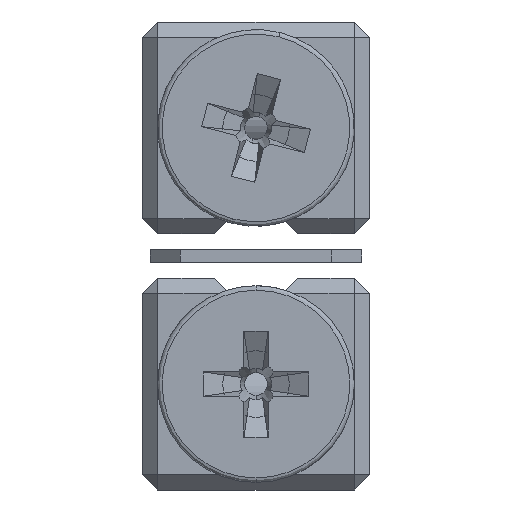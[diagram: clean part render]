
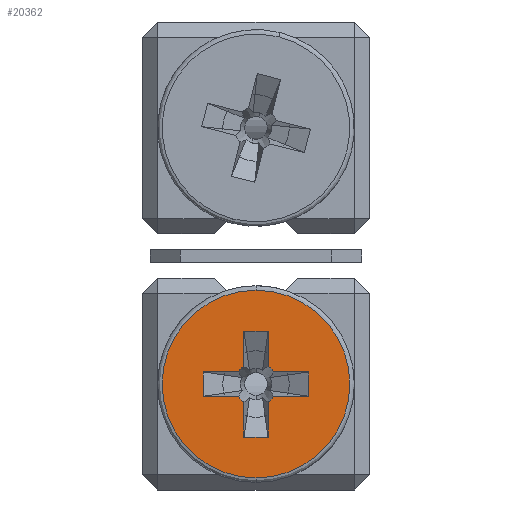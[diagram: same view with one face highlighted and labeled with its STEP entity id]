
A CAD part, left-side view. The second image highlights one B-rep face of the part: STEP entity #20362.
In plain terms, the highlighted planar face has unit normal (-1, 0, 0).
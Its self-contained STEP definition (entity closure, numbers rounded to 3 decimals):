
#133 = EDGE_CURVE ( 'NONE', #7628, #7560, #4654, .T. ) ;
#140 = EDGE_CURVE ( 'NONE', #7688, #7850, #4660, .T. ) ;
#144 = EDGE_CURVE ( 'NONE', #7851, #7608, #6056, .T. ) ;
#148 = EDGE_CURVE ( 'NONE', #7627, #7631, #6060, .T. ) ;
#153 = EDGE_CURVE ( 'NONE', #7622, #7631, #6066, .T. ) ;
#155 = EDGE_CURVE ( 'NONE', #7622, #7621, #6067, .T. ) ;
#156 = EDGE_CURVE ( 'NONE', #7620, #7583, #6065, .T. ) ;
#160 = EDGE_CURVE ( 'NONE', #1072, #7583, #6075, .T. ) ;
#162 = EDGE_CURVE ( 'NONE', #1072, #7608, #6078, .T. ) ;
#163 = EDGE_CURVE ( 'NONE', #7851, #1047, #6079, .T. ) ;
#166 = EDGE_CURVE ( 'NONE', #7553, #1047, #6085, .T. ) ;
#167 = EDGE_CURVE ( 'NONE', #7553, #7850, #6087, .T. ) ;
#168 = EDGE_CURVE ( 'NONE', #7688, #7554, #6089, .T. ) ;
#172 = EDGE_CURVE ( 'NONE', #1079, #7554, #6096, .T. ) ;
#174 = EDGE_CURVE ( 'NONE', #1079, #7552, #6097, .T. ) ;
#176 = EDGE_CURVE ( 'NONE', #7620, #7621, #6101, .T. ) ;
#177 = EDGE_CURVE ( 'NONE', #7627, #7552, #6102, .T. ) ;
#178 = EDGE_CURVE ( 'NONE', #7560, #7628, #6103, .T. ) ;
#1047 = VERTEX_POINT ( 'NONE', #2997 ) ;
#1072 = VERTEX_POINT ( 'NONE', #3021 ) ;
#1079 = VERTEX_POINT ( 'NONE', #3007 ) ;
#1522 = AXIS2_PLACEMENT_3D ( 'NONE', #14224, #14228, #14229 ) ;
#2997 = CARTESIAN_POINT ( 'NONE',  ( -179.202, 32.424, 0.8 ) ) ;
#3007 = CARTESIAN_POINT ( 'NONE',  ( -179.202, 36.724, -3.5 ) ) ;
#3021 = CARTESIAN_POINT ( 'NONE',  ( -179.202, 35.124, 3.5 ) ) ;
#4088 = EDGE_LOOP ( 'NONE', ( #7233, #7236, #20905, #7234, #7235, #7232, #7231, #7230, #21153, #21088, #7218, #21162, #21069, #21080, #21085, #21081 ) ) ;
#4098 = EDGE_LOOP ( 'NONE', ( #21173, #7205 ) ) ;
#4654 = CIRCLE ( 'NONE', #20713, 6.2 ) ;
#4660 = CIRCLE ( 'NONE', #20717, 1.42 ) ;
#6056 = CIRCLE ( 'NONE', #20718, 1.42 ) ;
#6060 = LINE ( 'NONE', #6878, #6062 ) ;
#6062 = VECTOR ( 'NONE', #7030, 1000. ) ;
#6065 = LINE ( 'NONE', #6845, #6072 ) ;
#6066 = LINE ( 'NONE', #6910, #6068 ) ;
#6067 = LINE ( 'NONE', #6915, #6069 ) ;
#6068 = VECTOR ( 'NONE', #7022, 1000. ) ;
#6069 = VECTOR ( 'NONE', #6917, 1000. ) ;
#6072 = VECTOR ( 'NONE', #6844, 1000. ) ;
#6075 = LINE ( 'NONE', #7009, #6077 ) ;
#6077 = VECTOR ( 'NONE', #6830, 1000. ) ;
#6078 = LINE ( 'NONE', #6847, #6080 ) ;
#6079 = LINE ( 'NONE', #7016, #6082 ) ;
#6080 = VECTOR ( 'NONE', #6930, 1000. ) ;
#6082 = VECTOR ( 'NONE', #6846, 1000. ) ;
#6085 = LINE ( 'NONE', #7015, #6088 ) ;
#6087 = LINE ( 'NONE', #6940, #6090 ) ;
#6088 = VECTOR ( 'NONE', #6842, 1000. ) ;
#6089 = LINE ( 'NONE', #6851, #6092 ) ;
#6090 = VECTOR ( 'NONE', #6834, 1000. ) ;
#6092 = VECTOR ( 'NONE', #7012, 1000. ) ;
#6096 = LINE ( 'NONE', #6852, #6098 ) ;
#6097 = LINE ( 'NONE', #7004, #6099 ) ;
#6098 = VECTOR ( 'NONE', #7026, 1000. ) ;
#6099 = VECTOR ( 'NONE', #6926, 1000. ) ;
#6101 = CIRCLE ( 'NONE', #20720, 1.42 ) ;
#6102 = CIRCLE ( 'NONE', #20721, 1.42 ) ;
#6103 = CIRCLE ( 'NONE', #20722, 6.2 ) ;
#6820 = DIRECTION ( 'NONE',  ( 0., 0., 1. ) ) ;
#6830 = DIRECTION ( 'NONE',  ( 0., 1., 0. ) ) ;
#6834 = DIRECTION ( 'NONE',  ( 0., 1., 0. ) ) ;
#6842 = DIRECTION ( 'NONE',  ( 0., 0., 1. ) ) ;
#6843 = CARTESIAN_POINT ( 'NONE',  ( -179.202, 35.924, 0. ) ) ;
#6844 = DIRECTION ( 'NONE',  ( 0., 0., 1. ) ) ;
#6845 = CARTESIAN_POINT ( 'NONE',  ( -179.202, 36.724, -3.5 ) ) ;
#6846 = DIRECTION ( 'NONE',  ( 0., -1., 0. ) ) ;
#6847 = CARTESIAN_POINT ( 'NONE',  ( -179.202, 35.124, 3.5 ) ) ;
#6851 = CARTESIAN_POINT ( 'NONE',  ( -179.202, 35.124, 3.5 ) ) ;
#6852 = CARTESIAN_POINT ( 'NONE',  ( -179.202, 36.724, -3.5 ) ) ;
#6878 = CARTESIAN_POINT ( 'NONE',  ( -179.202, 32.424, -0.8 ) ) ;
#6910 = CARTESIAN_POINT ( 'NONE',  ( -179.202, 39.424, 0.8 ) ) ;
#6915 = CARTESIAN_POINT ( 'NONE',  ( -179.202, 39.424, 0.8 ) ) ;
#6917 = DIRECTION ( 'NONE',  ( 0., -1., 0. ) ) ;
#6926 = DIRECTION ( 'NONE',  ( 0., 0., 1. ) ) ;
#6930 = DIRECTION ( 'NONE',  ( 0., 0., -1. ) ) ;
#6940 = CARTESIAN_POINT ( 'NONE',  ( -179.202, 32.424, -0.8 ) ) ;
#6958 = DIRECTION ( 'NONE',  ( 0., 0., 1. ) ) ;
#6959 = CARTESIAN_POINT ( 'NONE',  ( -179.202, 35.924, 0. ) ) ;
#6962 = DIRECTION ( 'NONE',  ( -1., 0., 0. ) ) ;
#6963 = DIRECTION ( 'NONE',  ( 0., 0., -1. ) ) ;
#6964 = DIRECTION ( 'NONE',  ( -1., 0., 0. ) ) ;
#6967 = CARTESIAN_POINT ( 'NONE',  ( -179.202, 35.924, 0. ) ) ;
#6968 = DIRECTION ( 'NONE',  ( 0., 0., 1. ) ) ;
#6980 = CARTESIAN_POINT ( 'NONE',  ( -179.202, 35.924, 0. ) ) ;
#7004 = CARTESIAN_POINT ( 'NONE',  ( -179.202, 36.724, -3.5 ) ) ;
#7009 = CARTESIAN_POINT ( 'NONE',  ( -179.202, 35.124, 3.5 ) ) ;
#7012 = DIRECTION ( 'NONE',  ( 0., 0., -1. ) ) ;
#7015 = CARTESIAN_POINT ( 'NONE',  ( -179.202, 32.424, -0.8 ) ) ;
#7016 = CARTESIAN_POINT ( 'NONE',  ( -179.202, 39.424, 0.8 ) ) ;
#7022 = DIRECTION ( 'NONE',  ( 0., 0., -1. ) ) ;
#7026 = DIRECTION ( 'NONE',  ( 0., -1., 0. ) ) ;
#7030 = DIRECTION ( 'NONE',  ( 0., 1., 0. ) ) ;
#7034 = DIRECTION ( 'NONE',  ( 0., 0., 1. ) ) ;
#7036 = DIRECTION ( 'NONE',  ( -1., 0., 0. ) ) ;
#7040 = DIRECTION ( 'NONE',  ( -1., 0., 0. ) ) ;
#7045 = DIRECTION ( 'NONE',  ( -1., 0., 0. ) ) ;
#7049 = CARTESIAN_POINT ( 'NONE',  ( -179.202, 35.924, 0. ) ) ;
#7053 = DIRECTION ( 'NONE',  ( 0., 0., -1. ) ) ;
#7054 = DIRECTION ( 'NONE',  ( -1., 0., 0. ) ) ;
#7071 = CARTESIAN_POINT ( 'NONE',  ( -179.202, 35.924, 0. ) ) ;
#7205 = ORIENTED_EDGE ( 'NONE', *, *, #133, .T. ) ;
#7218 = ORIENTED_EDGE ( 'NONE', *, *, #160, .F. ) ;
#7230 = ORIENTED_EDGE ( 'NONE', *, *, #155, .T. ) ;
#7231 = ORIENTED_EDGE ( 'NONE', *, *, #153, .F. ) ;
#7232 = ORIENTED_EDGE ( 'NONE', *, *, #148, .T. ) ;
#7233 = ORIENTED_EDGE ( 'NONE', *, *, #140, .F. ) ;
#7234 = ORIENTED_EDGE ( 'NONE', *, *, #174, .T. ) ;
#7235 = ORIENTED_EDGE ( 'NONE', *, *, #177, .F. ) ;
#7236 = ORIENTED_EDGE ( 'NONE', *, *, #168, .T. ) ;
#7552 = VERTEX_POINT ( 'NONE', #17680 ) ;
#7553 = VERTEX_POINT ( 'NONE', #17654 ) ;
#7554 = VERTEX_POINT ( 'NONE', #17666 ) ;
#7560 = VERTEX_POINT ( 'NONE', #17682 ) ;
#7583 = VERTEX_POINT ( 'NONE', #17637 ) ;
#7608 = VERTEX_POINT ( 'NONE', #18721 ) ;
#7620 = VERTEX_POINT ( 'NONE', #18733 ) ;
#7621 = VERTEX_POINT ( 'NONE', #18734 ) ;
#7622 = VERTEX_POINT ( 'NONE', #18735 ) ;
#7627 = VERTEX_POINT ( 'NONE', #18742 ) ;
#7628 = VERTEX_POINT ( 'NONE', #18743 ) ;
#7631 = VERTEX_POINT ( 'NONE', #18746 ) ;
#7688 = VERTEX_POINT ( 'NONE', #18854 ) ;
#7850 = VERTEX_POINT ( 'NONE', #18763 ) ;
#7851 = VERTEX_POINT ( 'NONE', #18811 ) ;
#8924 = FACE_OUTER_BOUND ( 'NONE', #4098, .T. ) ;
#8928 = FACE_BOUND ( 'NONE', #4088, .T. ) ;
#14217 = PLANE ( 'NONE',  #1522 ) ;
#14224 = CARTESIAN_POINT ( 'NONE',  ( -179.202, 42.424, 0. ) ) ;
#14228 = DIRECTION ( 'NONE',  ( 1., 0., 0. ) ) ;
#14229 = DIRECTION ( 'NONE',  ( 0., 0., -1. ) ) ;
#17637 = CARTESIAN_POINT ( 'NONE',  ( -179.202, 36.724, 3.5 ) ) ;
#17654 = CARTESIAN_POINT ( 'NONE',  ( -179.202, 32.424, -0.8 ) ) ;
#17666 = CARTESIAN_POINT ( 'NONE',  ( -179.202, 35.124, -3.5 ) ) ;
#17680 = CARTESIAN_POINT ( 'NONE',  ( -179.202, 36.724, -1.173 ) ) ;
#17682 = CARTESIAN_POINT ( 'NONE',  ( -179.202, 35.924, -6.2 ) ) ;
#18721 = CARTESIAN_POINT ( 'NONE',  ( -179.202, 35.124, 1.173 ) ) ;
#18733 = CARTESIAN_POINT ( 'NONE',  ( -179.202, 36.724, 1.173 ) ) ;
#18734 = CARTESIAN_POINT ( 'NONE',  ( -179.202, 37.097, 0.8 ) ) ;
#18735 = CARTESIAN_POINT ( 'NONE',  ( -179.202, 39.424, 0.8 ) ) ;
#18742 = CARTESIAN_POINT ( 'NONE',  ( -179.202, 37.097, -0.8 ) ) ;
#18743 = CARTESIAN_POINT ( 'NONE',  ( -179.202, 35.924, 6.2 ) ) ;
#18746 = CARTESIAN_POINT ( 'NONE',  ( -179.202, 39.424, -0.8 ) ) ;
#18763 = CARTESIAN_POINT ( 'NONE',  ( -179.202, 34.751, -0.8 ) ) ;
#18811 = CARTESIAN_POINT ( 'NONE',  ( -179.202, 34.751, 0.8 ) ) ;
#18854 = CARTESIAN_POINT ( 'NONE',  ( -179.202, 35.124, -1.173 ) ) ;
#20362 = ADVANCED_FACE ( 'NONE', ( #8924, #8928 ), #14217, .F. ) ;
#20713 = AXIS2_PLACEMENT_3D ( 'NONE', #6980, #7054, #7053 ) ;
#20717 = AXIS2_PLACEMENT_3D ( 'NONE', #6843, #7040, #6820 ) ;
#20718 = AXIS2_PLACEMENT_3D ( 'NONE', #7071, #7036, #7034 ) ;
#20720 = AXIS2_PLACEMENT_3D ( 'NONE', #7049, #6964, #6968 ) ;
#20721 = AXIS2_PLACEMENT_3D ( 'NONE', #6967, #7045, #6958 ) ;
#20722 = AXIS2_PLACEMENT_3D ( 'NONE', #6959, #6962, #6963 ) ;
#20905 = ORIENTED_EDGE ( 'NONE', *, *, #172, .F. ) ;
#21069 = ORIENTED_EDGE ( 'NONE', *, *, #144, .F. ) ;
#21080 = ORIENTED_EDGE ( 'NONE', *, *, #163, .T. ) ;
#21081 = ORIENTED_EDGE ( 'NONE', *, *, #167, .T. ) ;
#21085 = ORIENTED_EDGE ( 'NONE', *, *, #166, .F. ) ;
#21088 = ORIENTED_EDGE ( 'NONE', *, *, #156, .T. ) ;
#21153 = ORIENTED_EDGE ( 'NONE', *, *, #176, .F. ) ;
#21162 = ORIENTED_EDGE ( 'NONE', *, *, #162, .T. ) ;
#21173 = ORIENTED_EDGE ( 'NONE', *, *, #178, .T. ) ;
